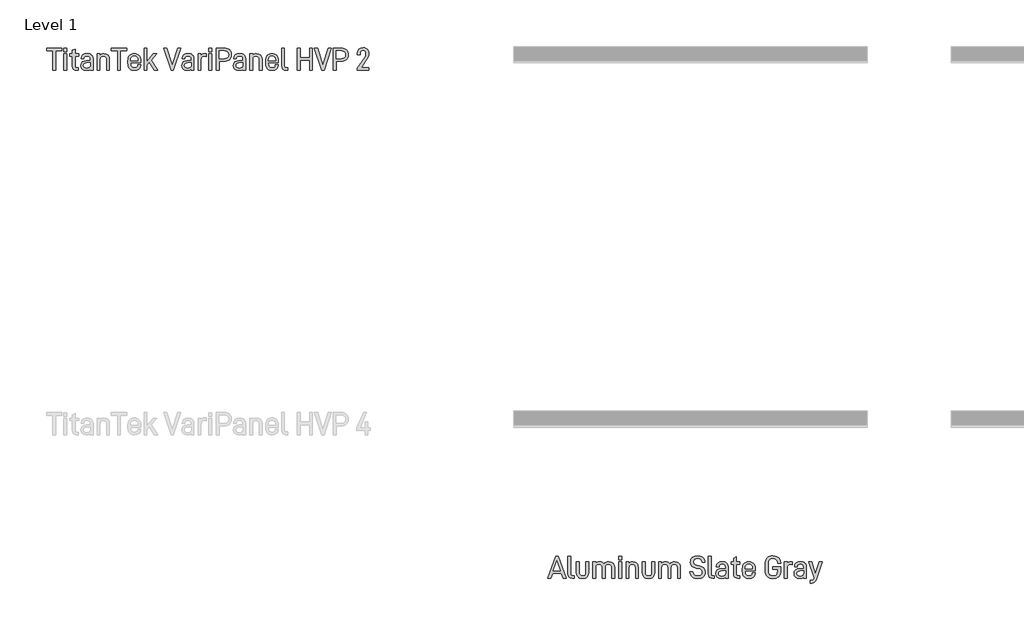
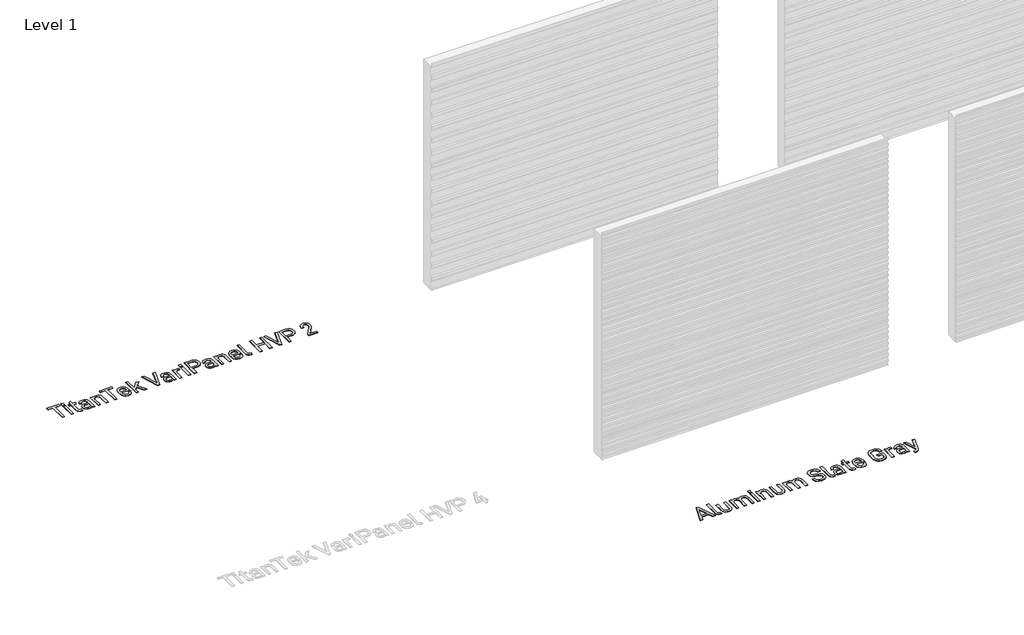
# One storey, part 2 of 9: 2 proxies.
"""IFC4 building model written with IfcOpenShell, lengths in millimetres."""

import ifcopenshell
import ifcopenshell.guid

model = None  # the IFC model being written
_history = None  # IfcOwnerHistory: only IFC2X3 demands one
_inside = {}  # id of a spatial element -> (the spatial element, [elements in it])
_under = {}  # id of a project, library or spatial element -> (it, [spatial elements below it])
_declared = {}  # id of a project -> (the project, [libraries it declares])
_typed = {}  # id of a type object -> (the type object, [elements of that type])
_made_of = {}  # id of a material, layer set ... -> (it, [elements and type objects made of it])


def new_model(schema):
    """Start an empty IFC model of exactly this schema.

    Asked for "IFC4X3", IfcOpenShell would pick the latest addendum, in which some entities
    have other attributes; the version numbers below select the first issue.
    IFC2X3 requires an IfcOwnerHistory on every rooted entity: one is made here for all.
    """
    global model, _history
    if schema == "IFC4X3":
        model = ifcopenshell.file(schema_version=(4, 3, 0, 0))
    else:
        model = ifcopenshell.file(schema=schema)
    _inside.clear()
    _under.clear()
    _declared.clear()
    _typed.clear()
    _made_of.clear()
    _history = None
    if model.schema == "IFC2X3":
        org = make("IfcOrganization", Name="unknown")
        user = make(
            "IfcPersonAndOrganization",
            ThePerson=make("IfcPerson", FamilyName="unknown"),
            TheOrganization=org,
        )
        app = make(
            "IfcApplication",
            ApplicationDeveloper=org,
            Version="unknown",
            ApplicationFullName="unknown",
            ApplicationIdentifier="unknown",
        )
        _history = make(
            "IfcOwnerHistory",
            OwningUser=user,
            OwningApplication=app,
            ChangeAction="ADDED",
            CreationDate=0,
        )
    return model


def make(cls, **values):
    """One entity of the class cls with the attributes given. An attribute that is None is left unset."""
    return model.create_entity(
        cls, **{name: value for name, value in values.items() if value is not None}
    )


def rooted(cls, **values):
    """An entity with a GlobalId (a new one), such as an element, a storey or a relation."""
    return make(cls, GlobalId=ifcopenshell.guid.new(), OwnerHistory=_history, **values)


def si_unit(unit_type, name, prefix=None):
    """IfcSIUnit, for example si_unit("LENGTHUNIT", "METRE", prefix="MILLI")."""
    return make("IfcSIUnit", UnitType=unit_type, Prefix=prefix, Name=name)


def assignment(units):
    """IfcUnitAssignment: the units of a project."""
    return None if units is None else make("IfcUnitAssignment", Units=units)


def point(xyz):
    """IfcCartesianPoint."""
    return None if xyz is None else make("IfcCartesianPoint", Coordinates=xyz)


def direction(xyz):
    """IfcDirection."""
    return None if xyz is None else make("IfcDirection", DirectionRatios=xyz)


def frame(location, z_axis=None, x_axis=None):
    """IfcAxis2Placement3D, a coordinate frame: its origin and axes. An axis left out is left unset."""
    return make(
        "IfcAxis2Placement3D",
        Location=point(location),
        Axis=direction(z_axis),
        RefDirection=direction(x_axis),
    )


def origin():
    """The frame at (0, 0, 0) with its axes left unset."""
    return frame((0.0, 0.0, 0.0))


def origin_with_axes():
    """The frame at (0, 0, 0) with the z axis (0, 0, 1) and the x axis (1, 0, 0) written out."""
    return frame((0.0, 0.0, 0.0), z_axis=(0.0, 0.0, 1.0), x_axis=(1.0, 0.0, 0.0))


def place(relative_to, where):
    """IfcLocalPlacement: puts the frame where relative to a parent placement (None: the world)."""
    return make(
        "IfcLocalPlacement", PlacementRelTo=relative_to, RelativePlacement=where
    )


def context(
    kind, dimensions, precision=None, world=None, true_north=None, identifier=None
):
    """IfcGeometricRepresentationContext, for example the 3D "Model" context."""
    return make(
        "IfcGeometricRepresentationContext",
        ContextIdentifier=identifier,
        ContextType=kind,
        CoordinateSpaceDimension=dimensions,
        Precision=precision,
        WorldCoordinateSystem=world,
        TrueNorth=true_north,
    )


def project(units=None, contexts=None):
    """IfcProject with its units and contexts."""
    return rooted(
        "IfcProject",
        Name="project",
        RepresentationContexts=contexts,
        UnitsInContext=assignment(units),
    )


def spatial(cls, under=None, at=None, **own):
    """A site, building, storey or space (cls), placed at a placement, below another one or the project."""
    s = rooted(cls, ObjectPlacement=at, **own)
    if under is not None:
        _under.setdefault(under.id(), (under, []))[1].append(s)
    return s


def polyline(points):
    """IfcPolyline through the points."""
    return make("IfcPolyline", Points=[point(p) for p in points])


def outline(outer, holes=None, kind="AREA"):
    """IfcArbitraryClosedProfileDef: a profile drawn as a closed curve; with holes, ...WithVoids."""
    if holes is None:
        return make("IfcArbitraryClosedProfileDef", ProfileType=kind, OuterCurve=outer)
    return make(
        "IfcArbitraryProfileDefWithVoids",
        ProfileType=kind,
        OuterCurve=outer,
        InnerCurves=holes,
    )


def extrude(swept, where, along, depth):
    """IfcExtrudedAreaSolid: the profile swept, set in the frame where, extruded along a direction by depth."""
    return make(
        "IfcExtrudedAreaSolid",
        SweptArea=swept,
        Position=where,
        ExtrudedDirection=direction(along),
        Depth=depth,
    )


def shape(context_of_items, identifier, shape_type, items):
    """IfcShapeRepresentation: the items that make up one representation, for example the "Body"."""
    return make(
        "IfcShapeRepresentation",
        ContextOfItems=context_of_items,
        RepresentationIdentifier=identifier,
        RepresentationType=shape_type,
        Items=items,
    )


def made_of(thing, what):
    """Note that an element or type object is made of a material, layer set ...; save() writes the relation."""
    if what is not None:
        _made_of.setdefault(what.id(), (what, []))[1].append(thing)
    return thing


def element(
    cls,
    number,
    at=None,
    inside=None,
    cuts=None,
    type_object=None,
    material=None,
    context=None,
    identifier="Body",
    shape_type=None,
    held_by="IfcProductDefinitionShape",
    body=None,
    shapes=None,
    **own,
):
    """One element of the class cls, such as IfcWall. Its Tag is "e" and its number.

    at: its placement. inside: the storey or other place that contains it. cuts: it is an
    opening in that element (IfcRelVoidsElement). A single representation is given by context,
    identifier, shape_type and body (its items); several are given by shapes. held_by: the class
    of the entity that holds the representations. save() writes the other relations.
    """
    e = rooted(cls, Tag="e%d" % number, ObjectPlacement=at, **own)
    if body is not None:
        shapes = [shape(context, identifier, shape_type, body)]
    if shapes is not None:
        e.Representation = make(held_by, Representations=shapes)
    if inside is not None:
        _inside.setdefault(inside.id(), (inside, []))[1].append(e)
    if cuts is not None:
        rooted(
            "IfcRelVoidsElement", RelatingBuildingElement=cuts, RelatedOpeningElement=e
        )
    if type_object is not None:
        _typed.setdefault(type_object.id(), (type_object, []))[1].append(e)
    return made_of(e, material)


def aggregate(whole, parts):
    """IfcRelAggregates: a whole, such as a stair, and the parts it consists of."""
    return rooted("IfcRelAggregates", RelatingObject=whole, RelatedObjects=parts)


def save(model, path):
    """Write the relations noted so far, then the file.

    IfcRelAggregates (storeys below a building ...), IfcRelContainedInSpatialStructure (elements
    in a storey), IfcRelDefinesByType, IfcRelAssociatesMaterial and IfcRelDeclares: one each for
    every whole, place, type object, material and project.
    """
    for whole, parts in _under.values():
        aggregate(whole, parts)
    for where, things in _inside.values():
        rooted(
            "IfcRelContainedInSpatialStructure",
            RelatedElements=things,
            RelatingStructure=where,
        )
    for kind, things in _typed.values():
        rooted("IfcRelDefinesByType", RelatedObjects=things, RelatingType=kind)
    for what, things in _made_of.values():
        rooted("IfcRelAssociatesMaterial", RelatedObjects=things, RelatingMaterial=what)
    for by, libraries in _declared.values():
        rooted("IfcRelDeclares", RelatingContext=by, RelatedDefinitions=libraries)
    model.write(path)


model = new_model("IFC4")

# Units and contexts
model_context = context("Model", 3, world=origin())
ifc_project = project(units=[si_unit("LENGTHUNIT", "METRE", prefix="MILLI")], contexts=[model_context])

# Site, building, storey
site = spatial("IfcSite", under=ifc_project)
building = spatial("IfcBuilding", under=site)
storey = spatial("IfcBuildingStorey", under=building, Name="Level 1", Elevation=0.0)

# Proxies
placement = place(None, origin())
element("IfcBuildingElementProxy", 1, Name="600mm Arial 2", ObjectType="600mm Arial 2", at=placement, inside=storey, context=model_context, shape_type="SweptSolid", body=[
    extrude(outline(polyline([(-8638.9924556, -12779.5871657), (-8638.9924556, -13047.0126498), (-8678.4439015, -13047.0126498), (-8678.4439015, -12779.5871657), (-8762.8787304, -12779.5871657), (-8762.8787304, -12742.6833224), (-8554.5576267, -12742.6833224), (-8554.5576267, -12779.5871657), (-8638.9924556, -12779.5871657)])), origin_with_axes(), (0.0, 0.0, 1.0), 5.0),
    extrude(outline(polyline([(-8487.1553408, -12746.9778525), (-8487.1553408, -12794.1448949), (-8526.6067867, -12794.1448949), (-8526.6067867, -12746.9778525), (-8487.1553408, -12746.9778525)])), origin_with_axes(), (0.0, 0.0, 1.0), 5.0),
    extrude(outline(polyline([(-8488.0288046, -12821.1494824), (-8488.0288046, -13047.0126498), (-8525.733323, -13047.0126498), (-8525.733323, -12821.1494824), (-8488.0288046, -12821.1494824)])), origin_with_axes(), (0.0, 0.0, 1.0), 5.0),
    extrude(outline(polyline([(-8372.294858, -12987.398749), (-8370.8208879, -12998.4808203), (-8366.3989777, -13006.3965855), (-8359.0291273, -13011.1460446), (-8348.7113368, -13012.7291977), (-8327.2386864, -13012.7291977), (-8327.2386864, -13047.0126498), (-8353.3698101, -13047.0126498), (-8377.1535001, -13043.0456686), (-8395.3688587, -13031.144725), (-8406.6692959, -13012.6018175), (-8410.4361083, -12988.7089446), (-8410.4361083, -12852.8853319), (-8444.2828285, -12852.8853319), (-8444.2828285, -12821.1494824), (-8410.4361083, -12821.1494824), (-8410.4361083, -12773.1089763), (-8372.294858, -12755.1301808), (-8372.294858, -12821.1494824), (-8323.3808881, -12821.1494824), (-8323.3808881, -12852.8853319), (-8372.294858, -12852.8853319), (-8372.294858, -12987.398749)])), origin_with_axes(), (0.0, 0.0, 1.0), 5.0),
    extrude(outline(polyline([(-8146.8684225, -12837.8908709), (-8137.2830677, -12848.6590411), (-8130.4363858, -12861.7473495), (-8124.9590402, -12894.8843804), (-8124.9590402, -13047.0126498), (-8162.2996154, -13047.0126498), (-8162.2996154, -13030.7079931), (-8180.7151427, -13043.1548515), (-8197.7476858, -13047.9589022), (-8217.9829293, -13049.5602524), (-8250.0281305, -13045.2839194), (-8274.1029751, -13032.4549206), (-8289.2248162, -13010.6729184), (-8294.2654299, -12981.4300801), (-8289.1338304, -12953.7885919), (-8273.7390318, -12932.5888988), (-8249.063681, -12919.3777597), (-8217.1094655, -12914.9740466), (-8162.7363472, -12914.9740466), (-8162.7363472, -12894.4476485), (-8165.6296959, -12875.558995), (-8174.3097419, -12861.8383353), (-8188.2305704, -12853.8133871), (-8207.7197302, -12851.1384044), (-8226.2262434, -12853.3948524), (-8239.819523, -12860.1641964), (-8248.1720201, -12870.5183813), (-8250.9561857, -12884.5483927), (-8250.9561857, -12890.1531184), (-8287.8600291, -12890.1531184), (-8287.8600291, -12883.7477176), (-8282.4008807, -12856.7067358), (-8266.0234354, -12835.7072115), (-8240.8203668, -12822.5506638), (-8208.1564621, -12818.1651479), (-8172.6719974, -12823.0965787), (-8158.5600987, -12829.2608671), (-8146.8684225, -12837.8908709)]), holes=[polyline([(-8174.6736851, -13005.4503331), (-8165.7206817, -12990.5468579), (-8162.7363472, -12968.9832216), (-8162.7363472, -12945.0357572), (-8212.8149354, -12945.0357572), (-8231.9538, -12947.2831067), (-8245.6244175, -12954.025155), (-8253.826788, -12965.2619021), (-8256.5609115, -12980.9933482), (-8253.8540837, -12996.9477094), (-8245.7336004, -13008.3436818), (-8232.1994616, -13015.1812652), (-8213.2516673, -13017.4604596), (-8190.104878, -13014.457928), (-8174.6736851, -13005.4503331)])]), origin_with_axes(), (0.0, 0.0, 1.0), 5.0),
    extrude(outline(polyline([(-8030.6977441, -12821.1494824), (-8030.6977441, -12839.5650097), (-8012.2822167, -12826.3174762), (-7995.1222935, -12820.5307789), (-7976.2518372, -12818.6018798), (-7943.9154813, -12824.0610282), (-7930.7907787, -12830.8849637), (-7919.6950595, -12840.4384735), (-7911.0650557, -12852.0209667), (-7904.9007673, -12865.8053165), (-7899.9693365, -12899.9795856), (-7899.9693365, -13047.0126498), (-7937.673855, -13047.0126498), (-7937.673855, -12904.2741157), (-7940.6763866, -12881.8916072), (-7949.6839815, -12866.1328654), (-7964.3781893, -12856.5247642), (-7983.567096, -12853.3220637), (-8002.7378056, -12856.5247642), (-8017.3774219, -12866.1328654), (-8027.0401146, -12882.546705), (-8030.2610122, -12904.2741157), (-8030.2610122, -13047.0126498), (-8067.9655306, -13047.0126498), (-8067.9655306, -12821.1494824), (-8030.6977441, -12821.1494824)])), origin_with_axes(), (0.0, 0.0, 1.0), 5.0),
    extrude(outline(polyline([(-7749.2240514, -12779.5871657), (-7749.2240514, -13047.0126498), (-7788.6754974, -13047.0126498), (-7788.6754974, -12779.5871657), (-7873.1103263, -12779.5871657), (-7873.1103263, -12742.6833224), (-7664.7892225, -12742.6833224), (-7664.7892225, -12779.5871657), (-7749.2240514, -12779.5871657)])), origin_with_axes(), (0.0, 0.0, 1.0), 5.0),
    extrude(outline(polyline([(-7608.5235994, -12952.7513537), (-7605.1025331, -12982.1670651), (-7594.8393341, -13001.1194087), (-7578.3527058, -13011.4099035), (-7556.2613519, -13014.8400684), (-7536.990558, -13012.2742686), (-7522.8513635, -13004.5768694), (-7514.1713175, -12992.8033059), (-7511.2779689, -12977.13555), (-7511.2779689, -12971.6036129), (-7474.3741256, -12971.6036129), (-7474.3741256, -12978.0090137), (-7480.0516399, -13007.1608663), (-7487.1485329, -13019.471246), (-7497.084183, -13030.2712613), (-7523.7976159, -13044.7380046), (-7558.3722226, -13049.5602524), (-7577.3222916, -13048.0612612), (-7594.2843206, -13043.5642877), (-7609.2583098, -13036.0693318), (-7622.2442591, -13025.5763936), (-7632.7371973, -13011.9762901), (-7640.2321532, -12995.1598383), (-7644.7291267, -12975.1270383), (-7646.2281179, -12951.8778899), (-7646.2281179, -12914.1733715), (-7644.7314014, -12891.4678633), (-7640.2412518, -12871.8285769), (-7632.7576691, -12855.2555121), (-7622.2806535, -12841.7486691), (-7609.4971476, -12831.4308786), (-7594.7301511, -12824.0610282), (-7577.979664, -12819.639118), (-7559.2456864, -12818.1651479), (-7540.8438069, -12819.639118), (-7524.2161506, -12824.0610282), (-7509.3627176, -12831.4308786), (-7496.2835079, -12841.7486691), (-7485.9657174, -12855.0917377), (-7478.595867, -12871.610211), (-7474.1739568, -12891.3040889), (-7472.6999867, -12914.1733715), (-7472.6999867, -12944.1622935), (-7608.5235994, -12944.1622935), (-7608.5235994, -12952.7513537)]), holes=[polyline([(-7595.2760659, -12866.5695973), (-7605.2117161, -12884.69397), (-7608.5235994, -12913.2999077), (-7510.4045051, -12913.7366396), (-7510.4045051, -12910.3155733), (-7513.6254027, -12883.0744226), (-7523.2880954, -12865.6961335), (-7538.9012599, -12856.4155812), (-7559.2456864, -12853.3220637), (-7579.60831, -12856.6339471), (-7595.2760659, -12866.5695973)])]), origin_with_axes(), (0.0, 0.0, 1.0), 5.0),
    extrude(outline(polyline([(-7387.391694, -12979.6831526), (-7387.391694, -13047.0126498), (-7425.0962125, -13047.0126498), (-7425.0962125, -12742.6833224), (-7387.391694, -12742.6833224), (-7387.391694, -12929.1678325), (-7299.0990669, -12821.1494824), (-7252.3687564, -12821.1494824), (-7326.5403863, -12908.1319139), (-7241.6688255, -13047.0126498), (-7287.5256722, -13047.0126498), (-7351.7980463, -12937.3201608), (-7387.391694, -12979.6831526)])), origin_with_axes(), (0.0, 0.0, 1.0), 5.0),
    extrude(outline(polyline([(-6964.5624516, -12742.6833224), (-6923.0001349, -12742.6833224), (-7022.4294248, -13047.0126498), (-7054.1652743, -13047.0126498), (-7153.1578324, -12742.6833224), (-7111.5955157, -12742.6833224), (-7037.8606177, -12977.13555), (-6964.5624516, -12742.6833224)])), origin_with_axes(), (0.0, 0.0, 1.0), 5.0),
    extrude(outline(polyline([(-6763.3018464, -12837.8908709), (-6753.7164916, -12848.6590411), (-6746.8698097, -12861.7473495), (-6741.3924641, -12894.8843804), (-6741.3924641, -13047.0126498), (-6778.7330393, -13047.0126498), (-6778.7330393, -13030.7079931), (-6797.1485666, -13043.1548515), (-6814.1811097, -13047.9589022), (-6834.4163532, -13049.5602524), (-6866.4615544, -13045.2839194), (-6890.536399, -13032.4549206), (-6905.6582401, -13010.6729184), (-6910.6988538, -12981.4300801), (-6905.5672543, -12953.7885919), (-6890.1724557, -12932.5888988), (-6865.4971049, -12919.3777597), (-6833.5428894, -12914.9740466), (-6779.1697712, -12914.9740466), (-6779.1697712, -12894.4476485), (-6782.0631198, -12875.558995), (-6790.7431658, -12861.8383353), (-6804.6639943, -12853.8133871), (-6824.1531542, -12851.1384044), (-6842.6596673, -12853.3948524), (-6856.2529469, -12860.1641964), (-6864.605444, -12870.5183813), (-6867.3896097, -12884.5483927), (-6867.3896097, -12890.1531184), (-6904.293453, -12890.1531184), (-6904.293453, -12883.7477176), (-6898.8343046, -12856.7067358), (-6882.4568593, -12835.7072115), (-6857.2537908, -12822.5506638), (-6824.589886, -12818.1651479), (-6789.1054213, -12823.0965787), (-6774.9935226, -12829.2608671), (-6763.3018464, -12837.8908709)]), holes=[polyline([(-6791.107109, -13005.4503331), (-6782.1541056, -12990.5468579), (-6779.1697712, -12968.9832216), (-6779.1697712, -12945.0357572), (-6829.2483594, -12945.0357572), (-6848.3872239, -12947.2831067), (-6862.0578414, -12954.025155), (-6870.2602119, -12965.2619021), (-6872.9943354, -12980.9933482), (-6870.2875076, -12996.9477094), (-6862.1670243, -13008.3436818), (-6848.6328855, -13015.1812652), (-6829.6850912, -13017.4604596), (-6806.5383019, -13014.457928), (-6791.107109, -13005.4503331)])]), origin_with_axes(), (0.0, 0.0, 1.0), 5.0),
    extrude(outline(polyline([(-6594.4321886, -12818.1651479), (-6574.2697337, -12820.2760186), (-6574.2697337, -12859.2907327), (-6600.8375894, -12853.686007), (-6619.1712295, -12857.2253549), (-6633.8472402, -12867.8433985), (-6643.4826371, -12884.2481396), (-6646.6944361, -12905.1475794), (-6646.6944361, -13047.0126498), (-6684.3989546, -13047.0126498), (-6684.3989546, -12821.1494824), (-6647.131168, -12821.1494824), (-6647.131168, -12840.8752053), (-6629.5891044, -12826.6814194), (-6613.4846166, -12820.2942158), (-6594.4321886, -12818.1651479)])), origin_with_axes(), (0.0, 0.0, 1.0), 5.0),
    extrude(outline(polyline([(-6497.9872331, -12746.9778525), (-6497.9872331, -12794.1448949), (-6537.438679, -12794.1448949), (-6537.438679, -12746.9778525), (-6497.9872331, -12746.9778525)])), origin_with_axes(), (0.0, 0.0, 1.0), 5.0),
    extrude(outline(polyline([(-6498.8606969, -12821.1494824), (-6498.8606969, -13047.0126498), (-6536.5652153, -13047.0126498), (-6536.5652153, -12821.1494824), (-6498.8606969, -12821.1494824)])), origin_with_axes(), (0.0, 0.0, 1.0), 5.0),
    extrude(outline(polyline([(-6253.6357497, -12766.7035755), (-6242.2033831, -12780.1603763), (-6234.0374069, -12796.073794), (-6229.1378212, -12814.4438284), (-6227.504626, -12835.2704796), (-6229.1651169, -12854.955259), (-6234.1465899, -12872.4472804), (-6242.4490448, -12887.7465438), (-6254.0724816, -12900.8530493), (-6268.1297888, -12911.3619101), (-6284.6073184, -12918.8682391), (-6303.5050706, -12923.3720366), (-6324.8230452, -12924.8733024), (-6395.5008201, -12924.8733024), (-6395.5008201, -13047.0126498), (-6435.3889979, -13047.0126498), (-6435.3889979, -12742.6833224), (-6324.8230452, -12742.6833224), (-6303.6415493, -12744.1845882), (-6284.7165014, -12748.6883857), (-6268.0479016, -12756.1947147), (-6253.6357497, -12766.7035755)]), holes=[polyline([(-6282.3872648, -12874.7219256), (-6271.141419, -12858.4172689), (-6267.3928038, -12835.2704796), (-6271.250602, -12810.6497202), (-6282.8239966, -12793.2714311), (-6301.8946218, -12783.0082321), (-6327.3706478, -12779.5871657), (-6395.5008201, -12779.5871657), (-6395.5008201, -12887.9694591), (-6327.3706478, -12887.9694591), (-6301.130341, -12884.6575757), (-6282.3872648, -12874.7219256)])]), origin_with_axes(), (0.0, 0.0, 1.0), 5.0),
    extrude(outline(polyline([(-6055.2139018, -12837.8908709), (-6045.628547, -12848.6590411), (-6038.781865, -12861.7473495), (-6033.3045194, -12894.8843804), (-6033.3045194, -13047.0126498), (-6070.6450946, -13047.0126498), (-6070.6450946, -13030.7079931), (-6089.060622, -13043.1548515), (-6106.093165, -13047.9589022), (-6126.3284085, -13049.5602524), (-6158.3736098, -13045.2839194), (-6182.4484543, -13032.4549206), (-6197.5702954, -13010.6729184), (-6202.6109091, -12981.4300801), (-6197.4793096, -12953.7885919), (-6182.0845111, -12932.5888988), (-6157.4091602, -12919.3777597), (-6125.4549448, -12914.9740466), (-6071.0818265, -12914.9740466), (-6071.0818265, -12894.4476485), (-6073.9751752, -12875.558995), (-6082.6552212, -12861.8383353), (-6096.5760496, -12853.8133871), (-6116.0652095, -12851.1384044), (-6134.5717226, -12853.3948524), (-6148.1650022, -12860.1641964), (-6156.5174993, -12870.5183813), (-6159.301665, -12884.5483927), (-6159.301665, -12890.1531184), (-6196.2055083, -12890.1531184), (-6196.2055083, -12883.7477176), (-6190.7463599, -12856.7067358), (-6174.3689146, -12835.7072115), (-6149.1658461, -12822.5506638), (-6116.5019414, -12818.1651479), (-6081.0174766, -12823.0965787), (-6066.905578, -12829.2608671), (-6055.2139018, -12837.8908709)]), holes=[polyline([(-6083.0191644, -13005.4503331), (-6074.066161, -12990.5468579), (-6071.0818265, -12968.9832216), (-6071.0818265, -12945.0357572), (-6121.1604147, -12945.0357572), (-6140.2992792, -12947.2831067), (-6153.9698967, -12954.025155), (-6162.1722672, -12965.2619021), (-6164.9063907, -12980.9933482), (-6162.199563, -12996.9477094), (-6154.0790797, -13008.3436818), (-6140.5449409, -13015.1812652), (-6121.5971466, -13017.4604596), (-6098.4503573, -13014.457928), (-6083.0191644, -13005.4503331)])]), origin_with_axes(), (0.0, 0.0, 1.0), 5.0),
    extrude(outline(polyline([(-5939.0432233, -12821.1494824), (-5939.0432233, -12839.5650097), (-5920.627696, -12826.3174762), (-5903.4677728, -12820.5307789), (-5884.5973164, -12818.6018798), (-5852.2609606, -12824.0610282), (-5839.1362579, -12830.8849637), (-5828.0405387, -12840.4384735), (-5819.410535, -12852.0209667), (-5813.2462465, -12865.8053165), (-5808.3148158, -12899.9795856), (-5808.3148158, -13047.0126498), (-5846.0193342, -13047.0126498), (-5846.0193342, -12904.2741157), (-5849.0218659, -12881.8916072), (-5858.0294607, -12866.1328654), (-5872.7236686, -12856.5247642), (-5891.9125753, -12853.3220637), (-5911.0832848, -12856.5247642), (-5925.7229012, -12866.1328654), (-5935.3855939, -12882.546705), (-5938.6064915, -12904.2741157), (-5938.6064915, -13047.0126498), (-5976.3110099, -13047.0126498), (-5976.3110099, -12821.1494824), (-5939.0432233, -12821.1494824)])), origin_with_axes(), (0.0, 0.0, 1.0), 5.0),
    extrude(outline(polyline([(-5721.8419048, -12952.7513537), (-5718.4208384, -12982.1670651), (-5708.1576394, -13001.1194087), (-5691.6710112, -13011.4099035), (-5669.5796572, -13014.8400684), (-5650.3088633, -13012.2742686), (-5636.1696689, -13004.5768694), (-5627.4896229, -12992.8033059), (-5624.5962742, -12977.13555), (-5624.5962742, -12971.6036129), (-5587.6924309, -12971.6036129), (-5587.6924309, -12978.0090137), (-5593.3699452, -13007.1608663), (-5600.4668382, -13019.471246), (-5610.4024883, -13030.2712613), (-5637.1159213, -13044.7380046), (-5671.6905279, -13049.5602524), (-5690.6405969, -13048.0612612), (-5707.602626, -13043.5642877), (-5722.5766152, -13036.0693318), (-5735.5625645, -13025.5763936), (-5746.0555027, -13011.9762901), (-5753.5504585, -12995.1598383), (-5758.047432, -12975.1270383), (-5759.5464232, -12951.8778899), (-5759.5464232, -12914.1733715), (-5758.0497067, -12891.4678633), (-5753.5595571, -12871.8285769), (-5746.0759745, -12855.2555121), (-5735.5989588, -12841.7486691), (-5722.8154529, -12831.4308786), (-5708.0484564, -12824.0610282), (-5691.2979694, -12819.639118), (-5672.5639917, -12818.1651479), (-5654.1621122, -12819.639118), (-5637.534456, -12824.0610282), (-5622.681023, -12831.4308786), (-5609.6018132, -12841.7486691), (-5599.2840227, -12855.0917377), (-5591.9141723, -12871.610211), (-5587.4922621, -12891.3040889), (-5586.018292, -12914.1733715), (-5586.018292, -12944.1622935), (-5721.8419048, -12944.1622935), (-5721.8419048, -12952.7513537)]), holes=[polyline([(-5708.5943713, -12866.5695973), (-5718.5300214, -12884.69397), (-5721.8419048, -12913.2999077), (-5623.7228105, -12913.7366396), (-5623.7228105, -12910.3155733), (-5626.943708, -12883.0744226), (-5636.6064007, -12865.6961335), (-5652.2195652, -12856.4155812), (-5672.5639917, -12853.3220637), (-5692.9266153, -12856.6339471), (-5708.5943713, -12866.5695973)])]), origin_with_axes(), (0.0, 0.0, 1.0), 5.0),
    extrude(outline(polyline([(-5523.4200568, -13031.144725), (-5534.6659025, -13011.637368), (-5538.4145178, -12985.7246101), (-5538.4145178, -12742.6833224), (-5500.7099994, -12742.6833224), (-5500.7099994, -12983.9776826), (-5499.3270151, -12997.3889906), (-5495.1780623, -13005.887065), (-5488.1903523, -13010.3635667), (-5477.5632101, -13011.8557339), (-5455.7266164, -13011.8557339), (-5455.7266164, -13047.0126498), (-5480.5475445, -13047.0126498), (-5505.4230642, -13043.0456686), (-5523.4200568, -13031.144725)])), origin_with_axes(), (0.0, 0.0, 1.0), 5.0),
    extrude(outline(polyline([(-5117.1138369, -13047.0126498), (-5156.9292261, -13047.0126498), (-5156.9292261, -12909.8788414), (-5286.7841699, -12909.8788414), (-5286.7841699, -13047.0126498), (-5326.6723477, -13047.0126498), (-5326.6723477, -12742.6833224), (-5286.7841699, -12742.6833224), (-5286.7841699, -12872.9749981), (-5156.9292261, -12872.9749981), (-5156.9292261, -12742.6833224), (-5117.1138369, -12742.6833224), (-5117.1138369, -13047.0126498)])), origin_with_axes(), (0.0, 0.0, 1.0), 5.0),
    extrude(outline(polyline([(-4900.8587707, -12742.6833224), (-4859.2964541, -12742.6833224), (-4958.725744, -13047.0126498), (-4990.4615935, -13047.0126498), (-5089.4541516, -12742.6833224), (-5047.8918349, -12742.6833224), (-4974.1569369, -12977.13555), (-4900.8587707, -12742.6833224)])), origin_with_axes(), (0.0, 0.0, 1.0), 5.0),
    extrude(outline(polyline([(-4651.1209276, -12766.7035755), (-4639.6885609, -12780.1603763), (-4631.5225848, -12796.073794), (-4626.6229991, -12814.4438284), (-4624.9898038, -12835.2704796), (-4626.6502948, -12854.955259), (-4631.6317677, -12872.4472804), (-4639.9342226, -12887.7465438), (-4651.5576595, -12900.8530493), (-4665.6149667, -12911.3619101), (-4682.0924963, -12918.8682391), (-4700.9902484, -12923.3720366), (-4722.308223, -12924.8733024), (-4792.9859979, -12924.8733024), (-4792.9859979, -13047.0126498), (-4832.8741757, -13047.0126498), (-4832.8741757, -12742.6833224), (-4722.308223, -12742.6833224), (-4701.1267271, -12744.1845882), (-4682.2016793, -12748.6883857), (-4665.5330794, -12756.1947147), (-4651.1209276, -12766.7035755)]), holes=[polyline([(-4679.8724426, -12874.7219256), (-4668.6265969, -12858.4172689), (-4664.8779816, -12835.2704796), (-4668.7357798, -12810.6497202), (-4680.3091745, -12793.2714311), (-4699.3797996, -12783.0082321), (-4724.8558256, -12779.5871657), (-4792.9859979, -12779.5871657), (-4792.9859979, -12887.9694591), (-4724.8558256, -12887.9694591), (-4698.6155189, -12884.6575757), (-4679.8724426, -12874.7219256)])]), origin_with_axes(), (0.0, 0.0, 1.0), 5.0),
    extrude(outline(polyline([(-4401.5286617, -12872.5382662), (-4387.9899737, -12846.7528885), (-4383.4770776, -12823.2603531), (-4383.4770776, -12816.8549523), (-4386.1702575, -12799.0581284), (-4394.2497972, -12785.9925665), (-4407.0969931, -12777.6400695), (-4423.3652554, -12774.8559038), (-4439.7427007, -12777.5308865), (-4452.0439818, -12785.5558347), (-4459.7959726, -12799.3856773), (-4462.3799695, -12818.6018798), (-4462.3799695, -12830.5392177), (-4501.7586268, -12830.5392177), (-4501.7586268, -12816.8549523), (-4496.4086613, -12785.2464829), (-4480.358765, -12759.8614428), (-4454.7553589, -12743.8115464), (-4422.4917917, -12738.4615809), (-4400.3094519, -12741.0273807), (-4380.929475, -12748.72478), (-4364.9705645, -12760.6075264), (-4353.0514238, -12776.6028313), (-4345.6815734, -12795.0001614), (-4343.2249566, -12815.9814885), (-4343.2249566, -12823.2603531), (-4344.9354898, -12841.9124435), (-4350.0670893, -12859.2907327), (-4369.7928122, -12894.0109167), (-4450.8065748, -13010.5455383), (-4343.2249566, -13010.5455383), (-4343.2249566, -13047.0126498), (-4501.7586268, -13047.0126498), (-4501.7586268, -13016.150264), (-4401.5286617, -12872.5382662)])), origin_with_axes(), (0.0, 0.0, 1.0), 5.0),
])
element("IfcBuildingElementProxy", 2, Name="600mm Arial 2", ObjectType="600mm Arial 2", at=placement, inside=storey, context=model_context, shape_type="SweptSolid", body=[
    extrude(outline(polyline([(-1825.1484985, -19946.6324484), (-1849.9694267, -20017.8197439), (-1891.9684752, -20017.8197439), (-1781.4025225, -19713.4904165), (-1749.3027298, -19713.4904165), (-1638.6639884, -20017.8197439), (-1680.663037, -20017.8197439), (-1705.5567538, -19946.6324484), (-1825.1484985, -19946.6324484)]), holes=[polyline([(-1765.5345978, -19774.3417242), (-1813.138372, -19911.5483212), (-1717.5668803, -19911.5483212), (-1765.5345978, -19774.3417242)])]), origin_with_axes(), (0.0, 0.0, 1.0), 5.0),
    extrude(outline(polyline([(-1599.2125425, -20001.9518191), (-1610.4583882, -19982.4444621), (-1614.2070035, -19956.5317042), (-1614.2070035, -19713.4904165), (-1576.5024851, -19713.4904165), (-1576.5024851, -19954.7847767), (-1575.1195008, -19968.1960847), (-1570.970548, -19976.6941591), (-1563.982838, -19981.1706608), (-1553.3556958, -19982.662828), (-1531.5191021, -19982.662828), (-1531.5191021, -20017.8197439), (-1556.3400302, -20017.8197439), (-1581.2155499, -20013.8527627), (-1599.2125425, -20001.9518191)])), origin_with_axes(), (0.0, 0.0, 1.0), 5.0),
    extrude(outline(polyline([(-1476.7820406, -19997.657289), (-1485.9534099, -19985.3150643), (-1492.504388, -19970.5617157), (-1497.7451705, -19933.8216468), (-1497.7451705, -19791.9565765), (-1460.0406521, -19791.9565765), (-1460.0406521, -19929.9638486), (-1457.3656693, -19955.1305228), (-1449.3407212, -19972.399629), (-1435.3198083, -19982.3352791), (-1413.7834678, -19985.6471625), (-1392.2471272, -19982.4444621), (-1378.2262144, -19972.8363609), (-1370.1466747, -19955.4580717), (-1367.4534948, -19929.9638486), (-1367.4534948, -19791.9565765), (-1329.7489764, -19791.9565765), (-1329.7489764, -19933.8216468), (-1335.007956, -19970.5617157), (-1341.5816806, -19985.3150643), (-1350.784895, -19997.657289), (-1362.772275, -20007.5929391), (-1377.3345535, -20014.6898321), (-1394.4717302, -20018.9479679), (-1414.1838053, -20020.3673465), (-1433.5182893, -20018.9479679), (-1450.3961565, -20014.6898321), (-1464.8174069, -20007.5929391), (-1476.7820406, -19997.657289)])), origin_with_axes(), (0.0, 0.0, 1.0), 5.0),
    extrude(outline(polyline([(-1236.8706646, -19791.9565765), (-1236.8706646, -19810.8088357), (-1218.4551372, -19797.4885135), (-1201.51358, -19791.4288588), (-1182.4247576, -19789.4089739), (-1160.7883327, -19791.8655907), (-1142.1726366, -19799.235441), (-1130.0533271, -19808.6615706), (-1119.4625792, -19821.5087666), (-1107.0111715, -19807.4651073), (-1091.930274, -19797.4339221), (-1074.2198866, -19791.4152109), (-1053.8800095, -19789.4089739), (-1021.3980763, -19794.8681223), (-1008.1459936, -19801.6920578), (-996.8864999, -19811.2455676), (-987.8743557, -19822.8280608), (-981.4371099, -19836.6124106), (-976.2873132, -19870.7866797), (-976.2873132, -20017.8197439), (-1013.9918317, -20017.8197439), (-1013.9918317, -19875.0812098), (-1016.9943633, -19852.6987012), (-1026.0019582, -19836.9399595), (-1040.1411526, -19827.3318582), (-1059.4119465, -19824.1291578), (-1079.1558667, -19827.3318582), (-1093.6953986, -19836.9399595), (-1103.0305424, -19853.0444473), (-1106.142257, -19873.8438028), (-1106.142257, -20017.8197439), (-1144.2835073, -20017.8197439), (-1144.2835073, -19875.0812098), (-1147.286039, -19852.6987012), (-1156.2936339, -19836.9399595), (-1170.4328283, -19827.3318582), (-1189.7036222, -19824.1291578), (-1208.9016275, -19827.3318582), (-1223.5503424, -19836.9399595), (-1233.2130351, -19853.3537991), (-1236.4339327, -19875.0812098), (-1236.4339327, -20017.8197439), (-1274.1384511, -20017.8197439), (-1274.1384511, -19791.9565765), (-1236.8706646, -19791.9565765)])), origin_with_axes(), (0.0, 0.0, 1.0), 5.0),
    extrude(outline(polyline([(-878.968894, -19791.9565765), (-878.968894, -20017.8197439), (-916.6734124, -20017.8197439), (-916.6734124, -19791.9565765), (-878.968894, -19791.9565765)])), origin_with_axes(), (0.0, 0.0, 1.0), 5.0),
    extrude(outline(polyline([(-878.0954303, -19717.7849466), (-878.0954303, -19764.9519889), (-917.5468762, -19764.9519889), (-917.5468762, -19717.7849466), (-878.0954303, -19717.7849466)])), origin_with_axes(), (0.0, 0.0, 1.0), 5.0),
    extrude(outline(polyline([(-780.3402792, -19791.9565765), (-780.3402792, -19810.3721038), (-761.9247518, -19797.1245703), (-744.7648286, -19791.337873), (-725.8943723, -19789.4089739), (-693.5580164, -19794.8681223), (-680.4333138, -19801.6920578), (-669.3375946, -19811.2455676), (-660.7075908, -19822.8280608), (-654.5433024, -19836.6124106), (-649.6118716, -19870.7866797), (-649.6118716, -20017.8197439), (-687.3163901, -20017.8197439), (-687.3163901, -19875.0812098), (-690.3189217, -19852.6987012), (-699.3265166, -19836.9399595), (-714.0207244, -19827.3318582), (-733.2096311, -19824.1291578), (-752.3803407, -19827.3318582), (-767.019957, -19836.9399595), (-776.6826497, -19853.3537991), (-779.9035473, -19875.0812098), (-779.9035473, -20017.8197439), (-817.6080658, -20017.8197439), (-817.6080658, -19791.9565765), (-780.3402792, -19791.9565765)])), origin_with_axes(), (0.0, 0.0, 1.0), 5.0),
    extrude(outline(polyline([(-573.0382164, -19997.657289), (-582.2095858, -19985.3150643), (-588.7605639, -19970.5617157), (-594.0013464, -19933.8216468), (-594.0013464, -19791.9565765), (-556.2968279, -19791.9565765), (-556.2968279, -19929.9638486), (-553.6218452, -19955.1305228), (-545.596897, -19972.399629), (-531.5759842, -19982.3352791), (-510.0396437, -19985.6471625), (-488.5033031, -19982.4444621), (-474.4823903, -19972.8363609), (-466.4028506, -19955.4580717), (-463.7096707, -19929.9638486), (-463.7096707, -19791.9565765), (-426.0051523, -19791.9565765), (-426.0051523, -19933.8216468), (-431.2641319, -19970.5617157), (-437.8378565, -19985.3150643), (-447.0410709, -19997.657289), (-459.0284509, -20007.5929391), (-473.5907294, -20014.6898321), (-490.7279061, -20018.9479679), (-510.4399812, -20020.3673465), (-529.7744652, -20018.9479679), (-546.6523324, -20014.6898321), (-561.0735828, -20007.5929391), (-573.0382164, -19997.657289)])), origin_with_axes(), (0.0, 0.0, 1.0), 5.0),
    extrude(outline(polyline([(-333.1268405, -19791.9565765), (-333.1268405, -19810.8088357), (-314.7113131, -19797.4885135), (-297.7697558, -19791.4288588), (-278.6809335, -19789.4089739), (-257.0445086, -19791.8655907), (-238.4288125, -19799.235441), (-226.309503, -19808.6615706), (-215.7187551, -19821.5087666), (-203.2673474, -19807.4651073), (-188.1864498, -19797.4339221), (-170.4760625, -19791.4152109), (-150.1361853, -19789.4089739), (-117.6542522, -19794.8681223), (-104.4021694, -19801.6920578), (-93.1426758, -19811.2455676), (-84.1305316, -19822.8280608), (-77.6932858, -19836.6124106), (-72.5434891, -19870.7866797), (-72.5434891, -20017.8197439), (-110.2480075, -20017.8197439), (-110.2480075, -19875.0812098), (-113.2505392, -19852.6987012), (-122.2581341, -19836.9399595), (-136.3973285, -19827.3318582), (-155.6681224, -19824.1291578), (-175.4120425, -19827.3318582), (-189.9515745, -19836.9399595), (-199.2867183, -19853.0444473), (-202.3984329, -19873.8438028), (-202.3984329, -20017.8197439), (-240.5396832, -20017.8197439), (-240.5396832, -19875.0812098), (-243.5422148, -19852.6987012), (-252.5498097, -19836.9399595), (-266.6890042, -19827.3318582), (-285.9597981, -19824.1291578), (-305.1578034, -19827.3318582), (-319.8065183, -19836.9399595), (-329.469211, -19853.3537991), (-332.6901086, -19875.0812098), (-332.6901086, -20017.8197439), (-370.394627, -20017.8197439), (-370.394627, -19791.9565765), (-333.1268405, -19791.9565765)])), origin_with_axes(), (0.0, 0.0, 1.0), 5.0),
    extrude(outline(polyline([(89.1928815, -19997.657289), (77.0053326, -19984.0139672), (67.8112168, -19967.4681982), (61.6105341, -19948.019982), (58.4032844, -19925.6693185), (97.7819417, -19925.6693185), (103.3821181, -19951.3682597), (116.3248491, -19969.7246463), (136.6101348, -19980.7384782), (164.2379751, -19984.4097555), (192.2798008, -19981.079675), (212.2056926, -19971.0894334), (224.1066361, -19955.2215086), (228.0736173, -19933.3849149), (224.9619027, -19913.7865721), (215.6267589, -19899.5381947), (199.3766938, -19889.7845162), (176.2481016, -19883.67027), (142.7653247, -19878.0655442), (109.992237, -19868.4392459), (85.3350833, -19852.3711523), (76.3547841, -19841.4937991), (69.9402847, -19828.5874624), (64.8086852, -19796.6878384), (66.5510634, -19777.2168757), (71.778198, -19760.002361), (80.490089, -19745.0442944), (92.6867365, -19732.3426757), (107.4218879, -19722.4070256), (124.2588115, -19715.3101326), (164.2379751, -19709.6326183), (201.3965787, -19715.0007809), (217.3281935, -19721.7109842), (231.4946837, -19731.1052687), (243.9324435, -19743.9615633), (253.3676717, -19759.8203894), (259.8003682, -19778.6817472), (263.2305332, -19800.5456367), (223.7790872, -19800.5456367), (218.9113466, -19776.343412), (207.292459, -19759.0561086), (188.9224246, -19748.6837266), (163.8012432, -19745.226266), (137.8884854, -19748.5563465), (119.2545921, -19758.5465881), (107.6811975, -19774.1597526), (103.8233992, -19794.5041791), (106.7167479, -19812.3010029), (115.3967939, -19825.3665648), (130.8279868, -19834.9018774), (153.1013123, -19841.2344896), (187.3847644, -19847.2031585), (221.4498506, -19857.1934001), (246.4891447, -19874.207746), (255.6923591, -19885.5218311), (262.2660836, -19898.8648997), (267.5250633, -19931.6379874), (265.7280936, -19951.6503157), (260.3371845, -19969.2515201), (251.3523361, -19984.4416005), (238.7735482, -19997.2205571), (223.3878483, -20007.3472775), (205.4727429, -20014.5806491), (185.028232, -20018.9206721), (162.0543157, -20020.3673465), (121.1288997, -20014.6898321), (104.0372159, -20007.5929391), (89.1928815, -19997.657289)])), origin_with_axes(), (0.0, 0.0, 1.0), 5.0),
    extrude(outline(polyline([(324.7369387, -20001.9518191), (313.491093, -19982.4444621), (309.7424777, -19956.5317042), (309.7424777, -19713.4904165), (347.4469962, -19713.4904165), (347.4469962, -19954.7847767), (348.8299804, -19968.1960847), (352.9789332, -19976.6941591), (359.9666432, -19981.1706608), (370.5937855, -19982.662828), (392.4303792, -19982.662828), (392.4303792, -20017.8197439), (367.609451, -20017.8197439), (342.7339314, -20013.8527627), (324.7369387, -20001.9518191)])), origin_with_axes(), (0.0, 0.0, 1.0), 5.0),
    extrude(outline(polyline([(561.5911916, -19808.697965), (571.1765464, -19819.4661352), (578.0232283, -19832.5544436), (583.5005739, -19865.6914745), (583.5005739, -20017.8197439), (546.1599987, -20017.8197439), (546.1599987, -20001.5150872), (527.7444714, -20013.9619456), (510.7119283, -20018.7659962), (490.4766848, -20020.3673465), (458.4314836, -20016.0910135), (434.356639, -20003.2620147), (419.2347979, -19981.4800125), (414.1941842, -19952.2371741), (419.3257837, -19924.595686), (434.7205823, -19903.3959929), (459.3959331, -19890.1848537), (491.3501486, -19885.7811407), (545.7232669, -19885.7811407), (545.7232669, -19865.2547426), (542.8299182, -19846.3660891), (534.1498722, -19832.6454294), (520.2290437, -19824.6204812), (500.7398839, -19821.9454985), (482.2333707, -19824.2019465), (468.6400911, -19830.9712905), (460.287594, -19841.3254754), (457.5034284, -19855.3554868), (457.5034284, -19860.9602125), (420.599585, -19860.9602125), (420.599585, -19854.5548117), (426.0587334, -19827.5138299), (442.4361787, -19806.5143056), (467.6392473, -19793.3577579), (500.303152, -19788.972242), (535.7876167, -19793.9036727), (549.8995154, -19800.0679612), (561.5911916, -19808.697965)]), holes=[polyline([(533.785929, -19976.2574272), (542.7389324, -19961.353952), (545.7232669, -19939.7903157), (545.7232669, -19915.8428513), (495.6446787, -19915.8428513), (476.5058142, -19918.0902008), (462.8351966, -19924.8322491), (454.6328261, -19936.0689962), (451.8987026, -19951.8004423), (454.6055304, -19967.7548035), (462.7260137, -19979.1507759), (476.2601525, -19985.9883593), (495.2079468, -19988.2675537), (518.3547361, -19985.2650221), (533.785929, -19976.2574272)])]), origin_with_axes(), (0.0, 0.0, 1.0), 5.0),
    extrude(outline(polyline([(694.8672017, -19958.2058431), (696.3411718, -19969.2879144), (700.763082, -19977.2036796), (708.1329324, -19981.9531387), (718.4507229, -19983.5362918), (739.9233734, -19983.5362918), (739.9233734, -20017.8197439), (713.7922496, -20017.8197439), (690.0085596, -20013.8527627), (671.7932011, -20001.9518191), (660.4927638, -19983.4089116), (656.7259514, -19959.5160387), (656.7259514, -19823.692426), (622.8792312, -19823.692426), (622.8792312, -19791.9565765), (656.7259514, -19791.9565765), (656.7259514, -19743.9160704), (694.8672017, -19725.9372749), (694.8672017, -19791.9565765), (743.7811716, -19791.9565765), (743.7811716, -19823.692426), (694.8672017, -19823.692426), (694.8672017, -19958.2058431)])), origin_with_axes(), (0.0, 0.0, 1.0), 5.0),
    extrude(outline(polyline([(815.7691421, -19923.5584478), (819.1902085, -19952.9741592), (829.4534075, -19971.9265028), (845.9400357, -19982.2169976), (868.0313897, -19985.6471625), (887.3021836, -19983.0813627), (901.441378, -19975.3839635), (910.121424, -19963.6104), (913.0147727, -19947.9426441), (913.0147727, -19942.410707), (949.918616, -19942.410707), (949.918616, -19948.8161078), (944.2411017, -19977.9679604), (937.1442087, -19990.2783401), (927.2085586, -20001.0783554), (900.4951256, -20015.5450987), (865.920519, -20020.3673465), (846.97045, -20018.8683553), (830.0084209, -20014.3713818), (815.0344317, -20006.8764259), (802.0484824, -19996.3834877), (791.5555442, -19982.7833842), (784.0605884, -19965.9669324), (779.5636149, -19945.9341324), (778.0646237, -19922.684984), (778.0646237, -19884.9804656), (779.5613402, -19862.2749574), (784.0514898, -19842.635671), (791.5350724, -19826.0626062), (802.0120881, -19812.5557632), (814.795594, -19802.2379727), (829.5625905, -19794.8681223), (846.3130776, -19790.4462121), (865.0470552, -19788.972242), (883.4489347, -19790.4462121), (900.0765909, -19794.8681223), (914.9300239, -19802.2379727), (928.0092337, -19812.5557632), (938.3270242, -19825.8988318), (945.6968746, -19842.4173051), (950.1187848, -19862.111183), (951.5927549, -19884.9804656), (951.5927549, -19914.9693876), (815.7691421, -19914.9693876), (815.7691421, -19923.5584478)]), holes=[polyline([(829.0166756, -19837.3766913), (819.0810255, -19855.5010641), (815.7691421, -19884.1070018), (913.8882364, -19884.5437337), (913.8882364, -19881.1226674), (910.6673389, -19853.8815167), (901.0046462, -19836.5032276), (885.3914817, -19827.2226753), (865.0470552, -19824.1291578), (844.6844316, -19827.4410412), (829.0166756, -19837.3766913)])]), origin_with_axes(), (0.0, 0.0, 1.0), 5.0),
    extrude(outline(polyline([(1118.0603874, -19992.926027), (1105.1313042, -19976.4393988), (1095.8962448, -19956.0949724), (1090.3552092, -19931.8927477), (1088.5081973, -19903.8327248), (1088.5081973, -19827.1134923), (1090.3552092, -19798.8851457), (1095.8962448, -19774.6146817), (1105.1313042, -19754.3021002), (1118.0603874, -19737.9474014), (1133.6917491, -19725.5596838), (1151.9071076, -19716.7113141), (1172.7064631, -19711.4022922), (1196.0898155, -19709.6326183), (1225.4054426, -19712.5259669), (1250.8996657, -19721.2060129), (1272.0265701, -19735.2542215), (1288.2402409, -19754.252058), (1297.8483421, -19777.4898332), (1301.0510425, -19803.5299711), (1301.0510425, -19809.4986401), (1261.2356534, -19809.4986401), (1261.2356534, -19803.5299711), (1256.9411233, -19780.0738301), (1244.057533, -19761.9676545), (1223.4037548, -19750.3942598), (1196.5265474, -19746.5364616), (1167.0289488, -19751.2495264), (1145.5017068, -19765.3887208), (1137.9862792, -19776.7210031), (1132.6181165, -19790.9921269), (1128.3235865, -19828.3508993), (1128.3235865, -19905.5068637), (1132.609018, -19939.8358086), (1145.4653125, -19964.3564836), (1155.1075334, -19972.9387199), (1166.8924701, -19979.0688886), (1196.8904906, -19983.9730236), (1225.3144568, -19979.6784935), (1245.3677286, -19966.7949033), (1257.8691785, -19944.3214089), (1262.0363285, -19911.1115894), (1262.0363285, -19892.696062), (1191.3585536, -19892.696062), (1191.3585536, -19857.1024143), (1301.9245063, -19857.1024143), (1301.9245063, -19905.5068637), (1300.1275366, -19933.6533231), (1294.7366275, -19957.6781254), (1285.7517791, -19977.5812707), (1273.1729913, -19993.3627589), (1257.4369959, -20005.5594064), (1239.3444682, -20014.2712974), (1218.8954081, -20019.498432), (1196.0898155, -20021.2408102), (1172.7064631, -20019.4711363), (1151.9071076, -20014.1621144), (1133.6917491, -20005.3137447), (1118.0603874, -19992.926027)])), origin_with_axes(), (0.0, 0.0, 1.0), 5.0),
    extrude(outline(polyline([(1443.2072674, -19788.972242), (1463.3697223, -19791.0831127), (1463.3697223, -19830.0978268), (1436.8018666, -19824.4931011), (1418.4682265, -19828.032449), (1403.7922158, -19838.6504926), (1394.1568189, -19855.0552336), (1390.9450199, -19875.9546735), (1390.9450199, -20017.8197439), (1353.2405014, -20017.8197439), (1353.2405014, -19791.9565765), (1390.508288, -19791.9565765), (1390.508288, -19811.6822994), (1408.0503516, -19797.4885135), (1424.1548394, -19791.1013099), (1443.2072674, -19788.972242)])), origin_with_axes(), (0.0, 0.0, 1.0), 5.0),
    extrude(outline(polyline([(1633.0400552, -19808.697965), (1642.62541, -19819.4661352), (1649.472092, -19832.5544436), (1654.9494376, -19865.6914745), (1654.9494376, -20017.8197439), (1617.6088624, -20017.8197439), (1617.6088624, -20001.5150872), (1599.193335, -20013.9619456), (1582.1607919, -20018.7659962), (1561.9255485, -20020.3673465), (1529.8803472, -20016.0910135), (1505.8055027, -20003.2620147), (1490.6836615, -19981.4800125), (1485.6430478, -19952.2371741), (1490.7746474, -19924.595686), (1506.1694459, -19903.3959929), (1530.8447968, -19890.1848537), (1562.7990122, -19885.7811407), (1617.1721305, -19885.7811407), (1617.1721305, -19865.2547426), (1614.2787818, -19846.3660891), (1605.5987358, -19832.6454294), (1591.6779074, -19824.6204812), (1572.1887475, -19821.9454985), (1553.6822343, -19824.2019465), (1540.0889548, -19830.9712905), (1531.7364577, -19841.3254754), (1528.952292, -19855.3554868), (1528.952292, -19860.9602125), (1492.0484487, -19860.9602125), (1492.0484487, -19854.5548117), (1497.5075971, -19827.5138299), (1513.8850423, -19806.5143056), (1539.0881109, -19793.3577579), (1571.7520156, -19788.972242), (1607.2364804, -19793.9036727), (1621.348379, -19800.0679612), (1633.0400552, -19808.697965)]), holes=[polyline([(1605.2347926, -19976.2574272), (1614.187796, -19961.353952), (1617.1721305, -19939.7903157), (1617.1721305, -19915.8428513), (1567.0935423, -19915.8428513), (1547.9546778, -19918.0902008), (1534.2840603, -19924.8322491), (1526.0816898, -19936.0689962), (1523.3475663, -19951.8004423), (1526.054394, -19967.7548035), (1534.1748773, -19979.1507759), (1547.7090161, -19985.9883593), (1566.6568104, -19988.2675537), (1589.8035997, -19985.2650221), (1605.2347926, -19976.2574272)])]), origin_with_axes(), (0.0, 0.0, 1.0), 5.0),
    extrude(outline(polyline([(1832.7720988, -19791.9565765), (1872.2235448, -19791.9565765), (1786.4785202, -20038.4189306), (1776.9432076, -20058.2356393), (1763.7684628, -20072.2656508), (1746.9542856, -20080.290599), (1725.6272125, -20082.9655817), (1708.5218808, -20082.9655817), (1708.5218808, -20047.8086659), (1723.5163417, -20047.8086659), (1736.2543547, -20046.4074844), (1744.4794717, -20042.2039401), (1750.9030697, -20035.1616387), (1756.4895982, -20023.3516809), (1759.9106646, -20011.414343), (1684.0648958, -19791.9565765), (1724.7537487, -19791.9565765), (1778.7629238, -19956.0949724), (1832.7720988, -19791.9565765)])), origin_with_axes(), (0.0, 0.0, 1.0), 5.0),
])

save(model, "model.ifc")
